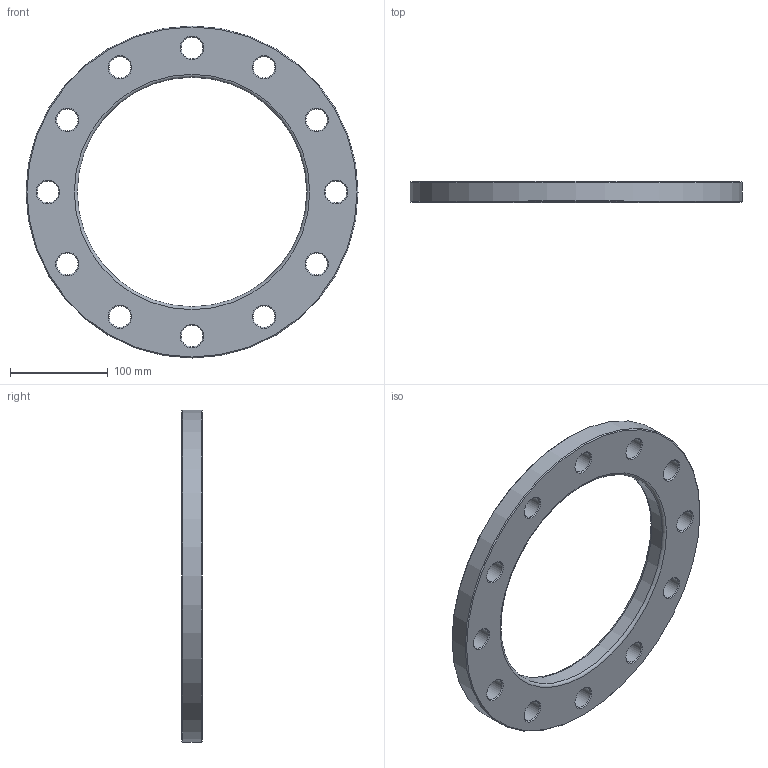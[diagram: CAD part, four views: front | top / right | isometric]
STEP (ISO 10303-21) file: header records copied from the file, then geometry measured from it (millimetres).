
FILE_DESCRIPTION(/* description */ ('Unknown'),/* implementation_level */ '2;1');
FILE_NAME(/* name */ 'FZ200C',/* time_stamp */ '2021-03-15T12:03:15+01:00',/* author */ ('Unknown'),/* organization */ ('Unknown'),/* preprocessor_version */ 'ST-DEVELOPER v16.7',/* originating_system */ 'Solid Edge',/* authorisation */ 'Unknown');
FILE_SCHEMA (('AUTOMOTIVE_DESIGN {1 0 10303 214 3 1 1}'));
Length unit declared in the file: millimetre
Products named in the file (1): FZ200C
Bounding box: 340 x 21 x 340 mm (x, y, z)
Volume: 895204.6 mm3; surface area: 136977.7 mm2
Topology: 1 solids, 1 shells, 44 faces, 134 edges, 92 vertices
Faces by surface type: cone 26, cylinder 14, plane 2, torus 2
Full cylindrical faces by diameter (mm): 22 x12, 235 x1, 340 x1
Entity records: 1086 total; most frequent: DIRECTION 202, CARTESIAN_POINT 157, ORIENTED_EDGE 112, EDGE_LOOP 112, FACE_BOUND 112, AXIS2_PLACEMENT_3D 101, EDGE_CURVE 56, VERTEX_POINT 56
